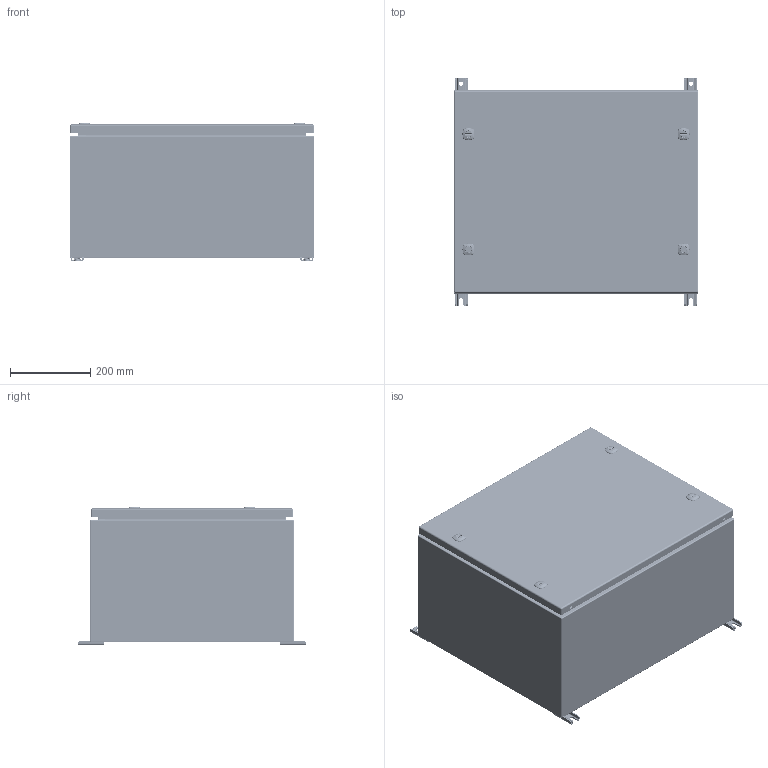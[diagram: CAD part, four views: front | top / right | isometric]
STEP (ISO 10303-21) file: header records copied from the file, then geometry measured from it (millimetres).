
FILE_DESCRIPTION(/* description */ ('5412ESQT 20" x 24" x 12" Assembly'),/* implementation_level */ '2;1');
FILE_NAME(/* name */ 'C:\Vault_Workspace\Inventor_Dwg\BoxCad\Result\5412ESQT202412TH\e-mail\3D\5412ESQT202412TH.stp',/* time_stamp */ '2023-07-18T18:38:18-04:00',/* author */ ('BoxCad'),/* organization */ (''),/* preprocessor_version */ 'ST-DEVELOPER v18.1',/* originating_system */ 'Autodesk Inventor 2020',/* authorisation */ '');
FILE_SCHEMA (('AUTOMOTIVE_DESIGN { 1 0 10303 214 3 1 1 }'));
Products named in the file (50): 5412ESQT202412TH; 5412ESQT202412THB; 5412ESQT202412THB-P; STK-Q-16005; 5412ESQT202412THI-B; 5412ESQT202412THI-TP; 5412ESQT202412THI-BT; 5412ESQT202412THI-LS; 5412ESQT202412THI-RS; 5412ESQT202412THBR; STK-A-70554; STK-Q-05021; STK-Q-07270; STK-A-70554TH-1; STK-Q-70554; 885ESMF3-Feet-A; 885ESMF3-Feet; STK-Q-06660; RIVET_NUT_M10_FH_CE; STK-K-885ESMF3; 5412ESQT202412THC; 5412ESQT202412THC-P; 5412ESQT202412THG; STK-Q-46515-1; STK-Q-46515-2; STK-Q-46515-3; STK-Q-16055; STK-Q-46515-4; STK-Q-46515-B; STK-Q-46515-A; STK-P-02400S; 5412ESQT202412THI-C; STK-Q-46020-20; STK-Q-07250; STK-S-00100; STK-K-12500-1; STK-K-12500-2; STK-K-12500-3; STK-K-12500-4; STK-Q-78111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
Assembly tree (111 placements, depth 5):
  5412ESQT202412TH
    5412ESQT202412THB
      5412ESQT202412THB-P
      STK-Q-16005  x4
      STK-P-02400S
      STK-Q-16055  x4
      5412ESQT202412THI-B
      5412ESQT202412THI-TP
      5412ESQT202412THI-BT
      5412ESQT202412THI-LS
      5412ESQT202412THI-RS
      5412ESQT202412THBR
        STK-A-70554
          STK-Q-70554
          STK-Q-05021
          STK-Q-07270
        STK-A-70554TH-1  x3
          STK-Q-70554
          STK-Q-07250
      885ESMF3-Feet-A  x2
      STK-Q-06660  x4
      RIVET_NUT_M10_FH_CE  x4
      885ESMF3-Feet  x2
      STK-K-885ESMF3
    5412ESQT202412THC
      5412ESQT202412THC-P
      5412ESQT202412THG
      STK-Q-16055  x8
      STK-Q-46515-1
        STK-Q-46515-B
        STK-Q-46515-A
      STK-Q-46515-2
        STK-Q-46515-B
        STK-Q-46515-A
      STK-Q-46515-3
        STK-Q-46515-B
        STK-Q-46515-A
      STK-Q-46515-4
        STK-Q-46515-B
        STK-Q-46515-A
      STK-P-02400S
      5412ESQT202412THI-C
      STK-Q-46020-20  x2
      STK-Q-07250  x4
      STK-S-00100  x2
      STK-K-12500-1
        STK-Q-78111
        STK-Q-78120
        STK-Q-78145
        STK-Q-03200
        STK-Q-78141
        STK-Q-90390
        STK-Q-78160
      STK-K-12500-2
        STK-Q-78111
        STK-Q-78120
        STK-Q-78145
        STK-Q-03200
        STK-Q-78141
        STK-Q-90390
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Bounding box: 609.6 x 565.15 x 344.81 mm (x, y, z)
Volume: 25032571.2 mm3; surface area: 6289681.5 mm2
Topology: 95 solids, 95 shells, 17682 faces, 47653 edges, 30475 vertices
Faces by surface type: plane 6004, bspline 5894, cylinder 4507, torus 758, cone 322, sphere 197
Full cylindrical faces by diameter (mm): 0.75 x16, 0.762 x16, 4.191 x32, 4.5 x12, 5.1 x152, 5.105 x52, 5.9 x32, 6.015 x32, 6.496 x8, 6.65 x4, 6.8 x60, 7.35 x8, 7.366 x4, 7.468 x8, 7.9 x8, 8 x4, 8.5 x4, 9.5 x1, 9.6 x4, 9.654 x4, 9.7 x36, 10 x4, 10.312 x6, 11.9 x36, 12.7 x12, 12.8 x4, 13 x4, 15.9 x4, 16 x4, 19 x4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
Entity records: 186498 total; most frequent: CARTESIAN_POINT 77756, ORIENTED_EDGE 24630, DIRECTION 18390, EDGE_CURVE 12315, VERTEX_POINT 7891, AXIS2_PLACEMENT_3D 6272, LINE 5846, VECTOR 5846
